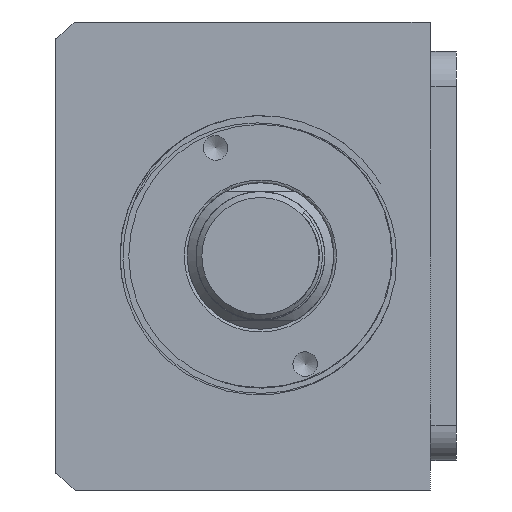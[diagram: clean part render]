
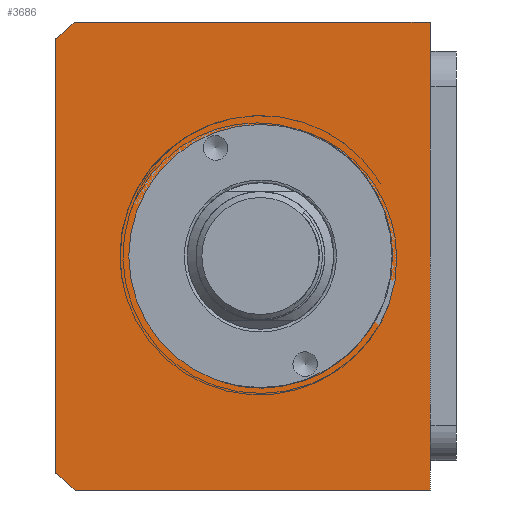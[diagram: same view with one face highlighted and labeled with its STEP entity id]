
A CAD part, front view. The second image highlights one B-rep face of the part: STEP entity #3686.
In plain terms, the highlighted planar face has unit normal (0, -1, 0).
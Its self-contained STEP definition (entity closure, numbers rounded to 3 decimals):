
#982=FACE_BOUND('',#4639,.T.);
#983=FACE_BOUND('',#4640,.T.);
#3340=PLANE('',#12495);
#3686=ADVANCED_FACE('',(#982,#983),#3340,.T.);
#4639=EDGE_LOOP('',(#7246));
#4640=EDGE_LOOP('',(#7247,#7248,#7249,#7250,#7251,#7252));
#5208=LINE('',#14994,#6136);
#5220=LINE('',#15196,#6148);
#5244=LINE('',#15249,#6172);
#5251=LINE('',#15269,#6179);
#6136=VECTOR('',#12979,1.);
#6148=VECTOR('',#13069,1.);
#6172=VECTOR('',#13099,1.);
#6179=VECTOR('',#13116,1.);
#7246=ORIENTED_EDGE('',*,*,#10987,.F.);
#7247=ORIENTED_EDGE('',*,*,#10998,.T.);
#7248=ORIENTED_EDGE('',*,*,#11033,.T.);
#7249=ORIENTED_EDGE('',*,*,#11024,.T.);
#7250=ORIENTED_EDGE('',*,*,#11034,.T.);
#7251=ORIENTED_EDGE('',*,*,#10959,.T.);
#7252=ORIENTED_EDGE('',*,*,#11035,.T.);
#9948=VERTEX_POINT('',#14993);
#9949=VERTEX_POINT('',#14995);
#9975=VERTEX_POINT('',#15169);
#9985=VERTEX_POINT('',#15194);
#9987=VERTEX_POINT('',#15197);
#10012=VERTEX_POINT('',#15248);
#10013=VERTEX_POINT('',#15250);
#10959=EDGE_CURVE('',#9949,#9948,#5208,.T.);
#10987=EDGE_CURVE('',#9975,#9975,#12353,.T.);
#10998=EDGE_CURVE('',#9987,#9985,#5220,.T.);
#11024=EDGE_CURVE('',#10013,#10012,#5244,.T.);
#11033=EDGE_CURVE('',#9985,#10013,#12367,.T.);
#11034=EDGE_CURVE('',#10012,#9949,#12368,.T.);
#11035=EDGE_CURVE('',#9948,#9987,#5251,.T.);
#12353=CIRCLE('',#12472,22.5);
#12367=CIRCLE('',#12493,51.);
#12368=CIRCLE('',#12494,51.);
#12472=AXIS2_PLACEMENT_3D('',#15168,#13038,#13039);
#12493=AXIS2_PLACEMENT_3D('',#15267,#13112,#13113);
#12494=AXIS2_PLACEMENT_3D('',#15268,#13114,#13115);
#12495=AXIS2_PLACEMENT_3D('',#15270,#13117,#13118);
#12979=DIRECTION('',(1.,0.,0.));
#13038=DIRECTION('',(0.,-1.,0.));
#13039=DIRECTION('',(0.,0.,-1.));
#13069=DIRECTION('',(-1.,0.,0.));
#13099=DIRECTION('',(0.,0.,-1.));
#13112=DIRECTION('',(0.,-1.,0.));
#13113=DIRECTION('',(0.,0.,-1.));
#13114=DIRECTION('',(0.,-1.,0.));
#13115=DIRECTION('',(0.,0.,-1.));
#13116=DIRECTION('',(0.,0.,1.));
#13117=DIRECTION('',(0.,-1.,0.));
#13118=DIRECTION('',(0.,0.,1.));
#14993=CARTESIAN_POINT('',(37.737,-52.895,-47.34));
#14994=CARTESIAN_POINT('',(37.737,-52.895,-47.34));
#14995=CARTESIAN_POINT('',(-22.901,-52.895,-47.34));
#15168=CARTESIAN_POINT('',(8.737,-52.895,-7.34));
#15169=CARTESIAN_POINT('',(8.737,-52.895,-29.84));
#15194=CARTESIAN_POINT('',(-22.901,-52.895,32.66));
#15196=CARTESIAN_POINT('',(37.737,-52.895,32.66));
#15197=CARTESIAN_POINT('',(37.737,-52.895,32.66));
#15248=CARTESIAN_POINT('',(-26.263,-52.895,-44.435));
#15249=CARTESIAN_POINT('',(-26.263,-52.895,32.66));
#15250=CARTESIAN_POINT('',(-26.263,-52.895,29.754));
#15267=CARTESIAN_POINT('',(8.737,-52.895,-7.34));
#15268=CARTESIAN_POINT('',(8.737,-52.895,-7.34));
#15269=CARTESIAN_POINT('',(37.737,-52.895,32.66));
#15270=CARTESIAN_POINT('',(5.737,-52.895,-7.34));
